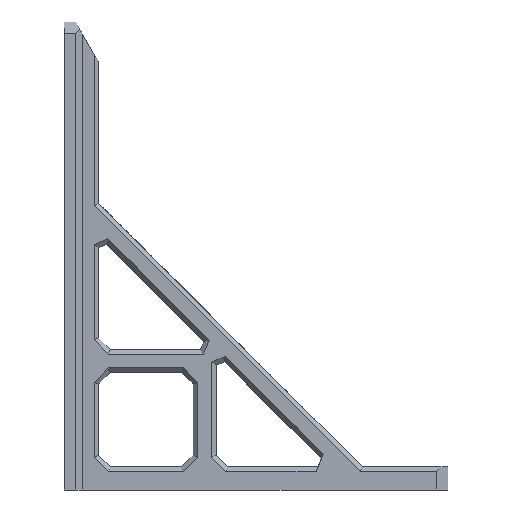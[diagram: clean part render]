
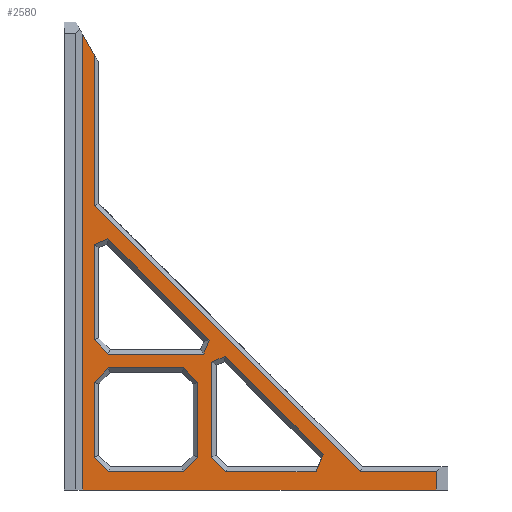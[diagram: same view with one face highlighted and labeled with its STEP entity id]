
A CAD part, left-side view. The second image highlights one B-rep face of the part: STEP entity #2580.
In plain terms, the highlighted planar face has unit normal (-1, 0, 0).
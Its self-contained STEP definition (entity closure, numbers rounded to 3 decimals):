
#60=FACE_BOUND('',#309,.T.);
#61=FACE_BOUND('',#310,.T.);
#62=FACE_BOUND('',#311,.T.);
#146=FACE_OUTER_BOUND('',#308,.T.);
#308=EDGE_LOOP('',(#1947,#1948,#1949,#1950,#1951,#1952,#1953));
#309=EDGE_LOOP('',(#1954,#1955,#1956,#1957,#1958,#1959));
#310=EDGE_LOOP('',(#1960,#1961,#1962,#1963,#1964,#1965));
#311=EDGE_LOOP('',(#1966,#1967,#1968,#1969,#1970,#1971,#1972,#1973));
#553=LINE('',#3876,#886);
#555=LINE('',#3880,#888);
#556=LINE('',#3882,#889);
#557=LINE('',#3884,#890);
#558=LINE('',#3886,#891);
#559=LINE('',#3888,#892);
#560=LINE('',#3889,#893);
#561=LINE('',#3892,#894);
#562=LINE('',#3894,#895);
#563=LINE('',#3896,#896);
#564=LINE('',#3898,#897);
#565=LINE('',#3900,#898);
#566=LINE('',#3901,#899);
#567=LINE('',#3904,#900);
#568=LINE('',#3906,#901);
#569=LINE('',#3908,#902);
#570=LINE('',#3910,#903);
#571=LINE('',#3912,#904);
#572=LINE('',#3913,#905);
#573=LINE('',#3916,#906);
#574=LINE('',#3918,#907);
#575=LINE('',#3920,#908);
#576=LINE('',#3922,#909);
#577=LINE('',#3924,#910);
#578=LINE('',#3926,#911);
#579=LINE('',#3928,#912);
#580=LINE('',#3929,#913);
#886=VECTOR('',#3165,10.);
#888=VECTOR('',#3169,10.);
#889=VECTOR('',#3170,10.);
#890=VECTOR('',#3171,10.);
#891=VECTOR('',#3172,10.);
#892=VECTOR('',#3173,10.);
#893=VECTOR('',#3174,10.);
#894=VECTOR('',#3175,10.);
#895=VECTOR('',#3176,10.);
#896=VECTOR('',#3177,10.);
#897=VECTOR('',#3178,10.);
#898=VECTOR('',#3179,10.);
#899=VECTOR('',#3180,10.);
#900=VECTOR('',#3181,10.);
#901=VECTOR('',#3182,10.);
#902=VECTOR('',#3183,10.);
#903=VECTOR('',#3184,10.);
#904=VECTOR('',#3185,10.);
#905=VECTOR('',#3186,10.);
#906=VECTOR('',#3187,10.);
#907=VECTOR('',#3188,10.);
#908=VECTOR('',#3189,10.);
#909=VECTOR('',#3190,10.);
#910=VECTOR('',#3191,10.);
#911=VECTOR('',#3192,10.);
#912=VECTOR('',#3193,10.);
#913=VECTOR('',#3194,10.);
#1181=VERTEX_POINT('',#3873);
#1182=VERTEX_POINT('',#3875);
#1183=VERTEX_POINT('',#3879);
#1184=VERTEX_POINT('',#3881);
#1185=VERTEX_POINT('',#3883);
#1186=VERTEX_POINT('',#3885);
#1187=VERTEX_POINT('',#3887);
#1188=VERTEX_POINT('',#3890);
#1189=VERTEX_POINT('',#3891);
#1190=VERTEX_POINT('',#3893);
#1191=VERTEX_POINT('',#3895);
#1192=VERTEX_POINT('',#3897);
#1193=VERTEX_POINT('',#3899);
#1194=VERTEX_POINT('',#3902);
#1195=VERTEX_POINT('',#3903);
#1196=VERTEX_POINT('',#3905);
#1197=VERTEX_POINT('',#3907);
#1198=VERTEX_POINT('',#3909);
#1199=VERTEX_POINT('',#3911);
#1200=VERTEX_POINT('',#3914);
#1201=VERTEX_POINT('',#3915);
#1202=VERTEX_POINT('',#3917);
#1203=VERTEX_POINT('',#3919);
#1204=VERTEX_POINT('',#3921);
#1205=VERTEX_POINT('',#3923);
#1206=VERTEX_POINT('',#3925);
#1207=VERTEX_POINT('',#3927);
#1456=EDGE_CURVE('',#1181,#1182,#553,.T.);
#1458=EDGE_CURVE('',#1181,#1183,#555,.T.);
#1459=EDGE_CURVE('',#1184,#1183,#556,.T.);
#1460=EDGE_CURVE('',#1185,#1184,#557,.T.);
#1461=EDGE_CURVE('',#1186,#1185,#558,.T.);
#1462=EDGE_CURVE('',#1187,#1186,#559,.T.);
#1463=EDGE_CURVE('',#1187,#1182,#560,.T.);
#1464=EDGE_CURVE('',#1188,#1189,#561,.T.);
#1465=EDGE_CURVE('',#1190,#1188,#562,.T.);
#1466=EDGE_CURVE('',#1191,#1190,#563,.T.);
#1467=EDGE_CURVE('',#1192,#1191,#564,.T.);
#1468=EDGE_CURVE('',#1193,#1192,#565,.T.);
#1469=EDGE_CURVE('',#1189,#1193,#566,.T.);
#1470=EDGE_CURVE('',#1194,#1195,#567,.T.);
#1471=EDGE_CURVE('',#1196,#1194,#568,.T.);
#1472=EDGE_CURVE('',#1197,#1196,#569,.T.);
#1473=EDGE_CURVE('',#1198,#1197,#570,.T.);
#1474=EDGE_CURVE('',#1199,#1198,#571,.T.);
#1475=EDGE_CURVE('',#1195,#1199,#572,.T.);
#1476=EDGE_CURVE('',#1200,#1201,#573,.T.);
#1477=EDGE_CURVE('',#1202,#1200,#574,.T.);
#1478=EDGE_CURVE('',#1203,#1202,#575,.T.);
#1479=EDGE_CURVE('',#1204,#1203,#576,.T.);
#1480=EDGE_CURVE('',#1205,#1204,#577,.T.);
#1481=EDGE_CURVE('',#1206,#1205,#578,.T.);
#1482=EDGE_CURVE('',#1207,#1206,#579,.T.);
#1483=EDGE_CURVE('',#1201,#1207,#580,.T.);
#1947=ORIENTED_EDGE('',*,*,#1456,.F.);
#1948=ORIENTED_EDGE('',*,*,#1458,.T.);
#1949=ORIENTED_EDGE('',*,*,#1459,.F.);
#1950=ORIENTED_EDGE('',*,*,#1460,.F.);
#1951=ORIENTED_EDGE('',*,*,#1461,.F.);
#1952=ORIENTED_EDGE('',*,*,#1462,.F.);
#1953=ORIENTED_EDGE('',*,*,#1463,.T.);
#1954=ORIENTED_EDGE('',*,*,#1464,.F.);
#1955=ORIENTED_EDGE('',*,*,#1465,.F.);
#1956=ORIENTED_EDGE('',*,*,#1466,.F.);
#1957=ORIENTED_EDGE('',*,*,#1467,.F.);
#1958=ORIENTED_EDGE('',*,*,#1468,.F.);
#1959=ORIENTED_EDGE('',*,*,#1469,.F.);
#1960=ORIENTED_EDGE('',*,*,#1470,.F.);
#1961=ORIENTED_EDGE('',*,*,#1471,.F.);
#1962=ORIENTED_EDGE('',*,*,#1472,.F.);
#1963=ORIENTED_EDGE('',*,*,#1473,.F.);
#1964=ORIENTED_EDGE('',*,*,#1474,.F.);
#1965=ORIENTED_EDGE('',*,*,#1475,.F.);
#1966=ORIENTED_EDGE('',*,*,#1476,.F.);
#1967=ORIENTED_EDGE('',*,*,#1477,.F.);
#1968=ORIENTED_EDGE('',*,*,#1478,.F.);
#1969=ORIENTED_EDGE('',*,*,#1479,.F.);
#1970=ORIENTED_EDGE('',*,*,#1480,.F.);
#1971=ORIENTED_EDGE('',*,*,#1481,.F.);
#1972=ORIENTED_EDGE('',*,*,#1482,.F.);
#1973=ORIENTED_EDGE('',*,*,#1483,.F.);
#2433=PLANE('',#2764);
#2580=ADVANCED_FACE('',(#146,#60,#61,#62),#2433,.T.);
#2764=AXIS2_PLACEMENT_3D('',#3878,#3167,#3168);
#3165=DIRECTION('',(0.,0.,1.));
#3167=DIRECTION('center_axis',(-1.,0.,0.));
#3168=DIRECTION('ref_axis',(0.,0.,1.));
#3169=DIRECTION('',(0.,-1.,0.));
#3170=DIRECTION('',(0.,0.,-1.));
#3171=DIRECTION('',(0.,-1.,0.));
#3172=DIRECTION('',(0.,-0.707,-0.707));
#3173=DIRECTION('',(0.,0.,-1.));
#3174=DIRECTION('',(0.,0.494,0.869));
#3175=DIRECTION('',(0.,-0.383,0.924));
#3176=DIRECTION('',(0.,-1.,0.));
#3177=DIRECTION('',(0.,-0.707,-0.707));
#3178=DIRECTION('',(0.,0.,-1.));
#3179=DIRECTION('',(0.,0.924,-0.383));
#3180=DIRECTION('',(0.,0.707,0.707));
#3181=DIRECTION('',(0.,0.707,0.707));
#3182=DIRECTION('',(0.,-0.383,0.924));
#3183=DIRECTION('',(0.,-1.,0.));
#3184=DIRECTION('',(0.,-0.707,-0.707));
#3185=DIRECTION('',(0.,0.,-1.));
#3186=DIRECTION('',(0.,0.924,-0.383));
#3187=DIRECTION('',(0.,-1.,0.));
#3188=DIRECTION('',(0.,-0.707,-0.707));
#3189=DIRECTION('',(0.,0.,-1.));
#3190=DIRECTION('',(0.,0.707,-0.707));
#3191=DIRECTION('',(0.,1.,0.));
#3192=DIRECTION('',(0.,0.707,0.707));
#3193=DIRECTION('',(0.,0.,1.));
#3194=DIRECTION('',(0.,-0.707,0.707));
#3873=CARTESIAN_POINT('',(-10.,-3.,-101.6));
#3875=CARTESIAN_POINT('',(-10.,-3.,96.32));
#3876=CARTESIAN_POINT('',(-10.,-3.,0.));
#3878=CARTESIAN_POINT('Origin',(-10.,-80.8,0.));
#3879=CARTESIAN_POINT('',(-10.,-156.6,-101.6));
#3880=CARTESIAN_POINT('',(-10.,0.,-101.6));
#3881=CARTESIAN_POINT('',(-10.,-156.6,-93.6));
#3882=CARTESIAN_POINT('',(-10.,-156.6,-45.8));
#3883=CARTESIAN_POINT('',(-10.,-123.522,-93.6));
#3884=CARTESIAN_POINT('',(-10.,-102.575,-93.6));
#3885=CARTESIAN_POINT('',(-10.,-8.,21.922));
#3886=CARTESIAN_POINT('',(-10.,-31.973,-2.051));
#3887=CARTESIAN_POINT('',(-10.,-8.,87.52));
#3888=CARTESIAN_POINT('',(-10.,-8.,42.));
#3889=CARTESIAN_POINT('',(-10.,-10.,84.));
#3890=CARTESIAN_POINT('',(-10.,-104.38,-93.6));
#3891=CARTESIAN_POINT('',(-10.,-107.501,-86.064));
#3892=CARTESIAN_POINT('',(-10.,-119.98,-55.938));
#3893=CARTESIAN_POINT('',(-10.,-65.172,-93.6));
#3894=CARTESIAN_POINT('',(-10.,-70.9,-93.6));
#3895=CARTESIAN_POINT('',(-10.,-59.,-87.428));
#3896=CARTESIAN_POINT('',(-10.,-44.136,-72.564));
#3897=CARTESIAN_POINT('',(-10.,-59.,-46.055));
#3898=CARTESIAN_POINT('',(-10.,-59.,-21.196));
#3899=CARTESIAN_POINT('',(-10.,-65.005,-43.568));
#3900=CARTESIAN_POINT('',(-10.,-77.946,-38.208));
#3901=CARTESIAN_POINT('',(-10.,-81.37,-59.934));
#3902=CARTESIAN_POINT('',(-10.,-58.032,-36.595));
#3903=CARTESIAN_POINT('',(-10.,-14.005,7.432));
#3904=CARTESIAN_POINT('',(-10.,-55.87,-34.434));
#3905=CARTESIAN_POINT('',(-10.,-55.545,-42.6));
#3906=CARTESIAN_POINT('',(-10.,-65.546,-18.454));
#3907=CARTESIAN_POINT('',(-10.,-14.172,-42.6));
#3908=CARTESIAN_POINT('',(-10.,-45.4,-42.6));
#3909=CARTESIAN_POINT('',(-10.,-8.,-36.428));
#3910=CARTESIAN_POINT('',(-10.,-18.636,-47.064));
#3911=CARTESIAN_POINT('',(-10.,-8.,4.945));
#3912=CARTESIAN_POINT('',(-10.,-8.,4.304));
#3913=CARTESIAN_POINT('',(-10.,-39.696,18.074));
#3914=CARTESIAN_POINT('',(-10.,-14.172,-93.6));
#3915=CARTESIAN_POINT('',(-10.,-46.828,-93.6));
#3916=CARTESIAN_POINT('',(-10.,-45.4,-93.6));
#3917=CARTESIAN_POINT('',(-10.,-8.,-87.428));
#3918=CARTESIAN_POINT('',(-10.,-5.886,-85.314));
#3919=CARTESIAN_POINT('',(-10.,-8.,-54.772));
#3920=CARTESIAN_POINT('',(-10.,-8.,-25.3));
#3921=CARTESIAN_POINT('',(-10.,-14.172,-48.6));
#3922=CARTESIAN_POINT('',(-10.,-41.436,-21.336));
#3923=CARTESIAN_POINT('',(-10.,-46.828,-48.6));
#3924=CARTESIAN_POINT('',(-10.,-65.9,-48.6));
#3925=CARTESIAN_POINT('',(-10.,-53.,-54.772));
#3926=CARTESIAN_POINT('',(-10.,-44.714,-46.486));
#3927=CARTESIAN_POINT('',(-10.,-53.,-87.428));
#3928=CARTESIAN_POINT('',(-10.,-53.,-45.8));
#3929=CARTESIAN_POINT('',(-10.,-80.264,-60.164));
